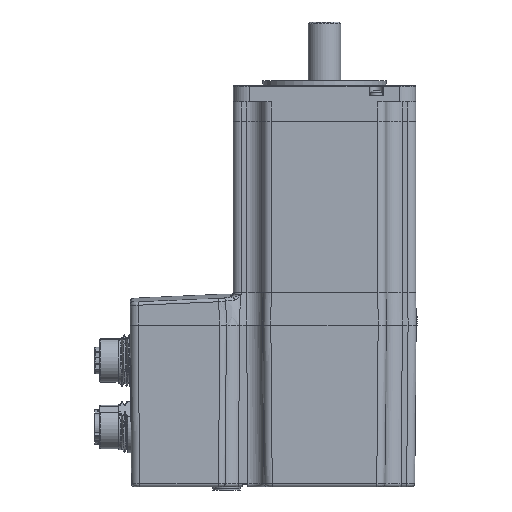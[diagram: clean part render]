
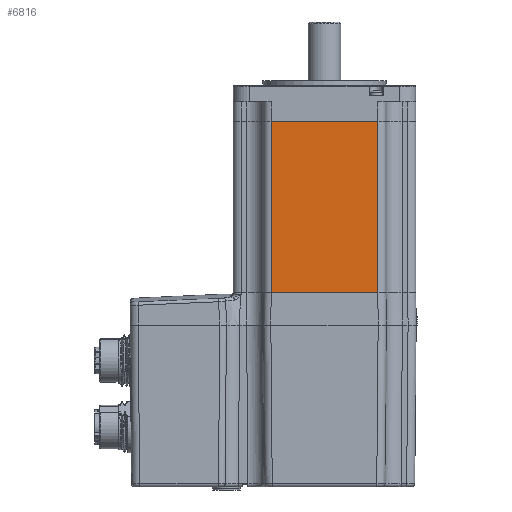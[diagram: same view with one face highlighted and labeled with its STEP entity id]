
A CAD part, front view. The second image highlights one B-rep face of the part: STEP entity #6816.
In plain terms, the highlighted planar face has unit normal (0, -1, 0).
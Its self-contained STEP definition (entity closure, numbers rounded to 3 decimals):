
#3470 = DIRECTION ( 'NONE',  ( -1., 0., 0. ) ) ;
#3909 = CARTESIAN_POINT ( 'NONE',  ( 44.5, -56.2, 0. ) ) ;
#4981 = ORIENTED_EDGE ( 'NONE', *, *, #28844, .T. ) ;
#5007 = PLANE ( 'NONE',  #38333 ) ;
#6175 = DIRECTION ( 'NONE',  ( 1., 0., 0. ) ) ;
#6406 = VECTOR ( 'NONE', #19874, 1000. ) ;
#6816 = ADVANCED_FACE ( 'NONE', ( #28715 ), #5007, .F. ) ;
#6924 = LINE ( 'NONE', #49763, #7498 ) ;
#6969 = LINE ( 'NONE', #9023, #6406 ) ;
#7414 = CARTESIAN_POINT ( 'NONE',  ( 44.5, -56.2, 53. ) ) ;
#7498 = VECTOR ( 'NONE', #3470, 1000. ) ;
#7511 = VECTOR ( 'NONE', #31307, 1000. ) ;
#7891 = LINE ( 'NONE', #56819, #7511 ) ;
#9023 = CARTESIAN_POINT ( 'NONE',  ( 44.5, -56.2, 111.762 ) ) ;
#10238 = DIRECTION ( 'NONE',  ( 0., 0., 1. ) ) ;
#12563 = EDGE_CURVE ( 'NONE', #28097, #59920, #6969, .T. ) ;
#14658 = ORIENTED_EDGE ( 'NONE', *, *, #54249, .T. ) ;
#19874 = DIRECTION ( 'NONE',  ( 0., 0., -1. ) ) ;
#23773 = ORIENTED_EDGE ( 'NONE', *, *, #12563, .F. ) ;
#28097 = VERTEX_POINT ( 'NONE', #7414 ) ;
#28715 = FACE_OUTER_BOUND ( 'NONE', #45476, .T. ) ;
#28844 = EDGE_CURVE ( 'NONE', #58052, #59920, #59869, .T. ) ;
#30655 = CARTESIAN_POINT ( 'NONE',  ( 11.5, -56.2, 111.762 ) ) ;
#31307 = DIRECTION ( 'NONE',  ( 0., 0., -1. ) ) ;
#32109 = ORIENTED_EDGE ( 'NONE', *, *, #37395, .T. ) ;
#37395 = EDGE_CURVE ( 'NONE', #60485, #58052, #7891, .T. ) ;
#38333 = AXIS2_PLACEMENT_3D ( 'NONE', #30655, #41043, #10238 ) ;
#38551 = CARTESIAN_POINT ( 'NONE',  ( 11.5, -56.2, 0. ) ) ;
#41043 = DIRECTION ( 'NONE',  ( 0., 1., 0. ) ) ;
#45476 = EDGE_LOOP ( 'NONE', ( #23773, #14658, #32109, #4981 ) ) ;
#47067 = CARTESIAN_POINT ( 'NONE',  ( 11.5, -56.2, 0. ) ) ;
#49763 = CARTESIAN_POINT ( 'NONE',  ( 44.5, -56.2, 53. ) ) ;
#54249 = EDGE_CURVE ( 'NONE', #28097, #60485, #6924, .T. ) ;
#56819 = CARTESIAN_POINT ( 'NONE',  ( 11.5, -56.2, 111.762 ) ) ;
#58052 = VERTEX_POINT ( 'NONE', #38551 ) ;
#59633 = CARTESIAN_POINT ( 'NONE',  ( 11.5, -56.2, 53. ) ) ;
#59685 = VECTOR ( 'NONE', #6175, 1000. ) ;
#59869 = LINE ( 'NONE', #47067, #59685 ) ;
#59920 = VERTEX_POINT ( 'NONE', #3909 ) ;
#60485 = VERTEX_POINT ( 'NONE', #59633 ) ;
